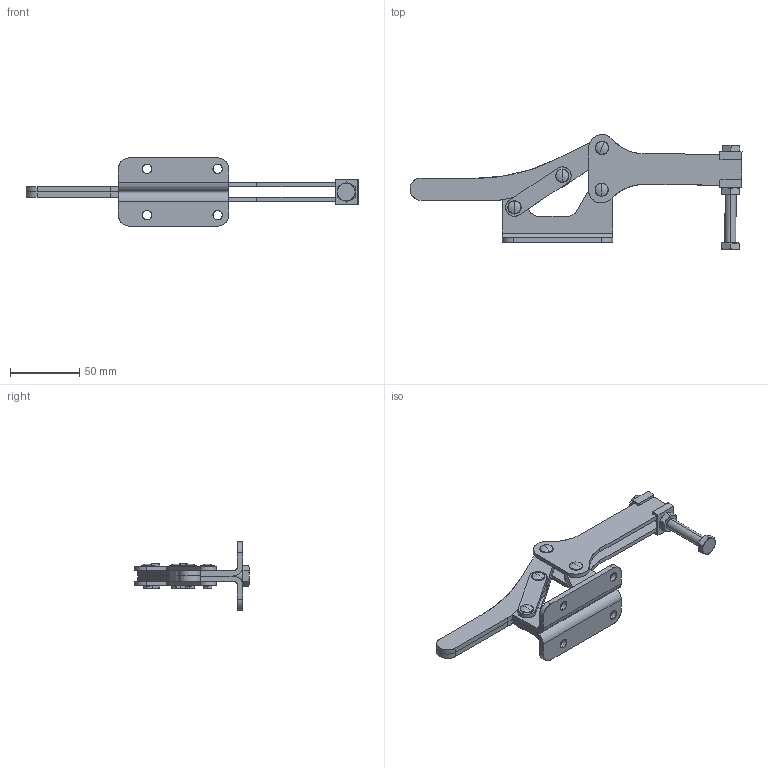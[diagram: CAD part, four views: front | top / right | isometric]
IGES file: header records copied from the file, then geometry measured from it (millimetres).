
Start section: SolidWorks IGES file using analytic representation for surfaces
Global section: file name: C:\lapeer-mfg\600\H-600\iges\H-600sw.IGS; native system: SolidWorks 2005 by SolidWorks Corporation; preprocessor: SolidWorks 2005 by SolidWorks Corporation; author: rtaylor; date: 050329.180731; units: inch
Bounding box: 238.99 x 82.57 x 49.17 mm (x, y, z)
Surface area: 53694.3 mm2 (no closed solid volume)
Topology: 0 solids, 0 shells, 314 faces, 4694 edges, 4678 vertices
Faces by surface type: revolution 172, bspline 142
